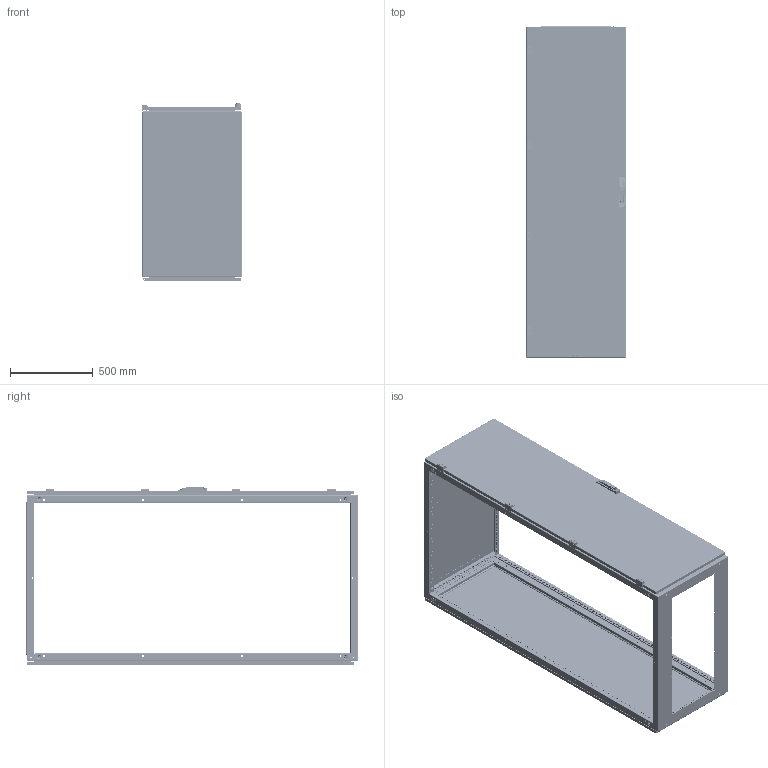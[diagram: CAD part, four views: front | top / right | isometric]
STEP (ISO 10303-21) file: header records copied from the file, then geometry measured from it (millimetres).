
FILE_DESCRIPTION (( 'STEP AP214' ), '1' );
FILE_NAME ('QA200610.step', '2011-08-10T07:40:21', ( 'Radek Veselý' ), ( 'Siemens and Partners' ), 'SwSTEP 2.0', 'SolidWorks 2006303', '' );
FILE_SCHEMA (( 'AUTOMOTIVE_DESIGN' ));
Length unit declared in the file: millimetre
Products named in the file (1): QA200610
Bounding box: 600 x 2004.5 x 1076 mm (x, y, z)
Volume: 10218932.6 mm3; surface area: 11730694.6 mm2
Topology: 94 solids, 94 shells, 7207 faces, 19708 edges, 12684 vertices
Faces by surface type: plane 3912, cylinder 2723, cone 300, torus 164, sphere 60, bspline 48
Entity records: 315048 total; most frequent: CARTESIAN_POINT 42042, DIRECTION 39784, ORIENTED_EDGE 39008, EDGE_CURVE 19504, AXIS2_PLACEMENT_3D 13317, VECTOR 13150, LINE 13150, VERTEX_POINT 12668
